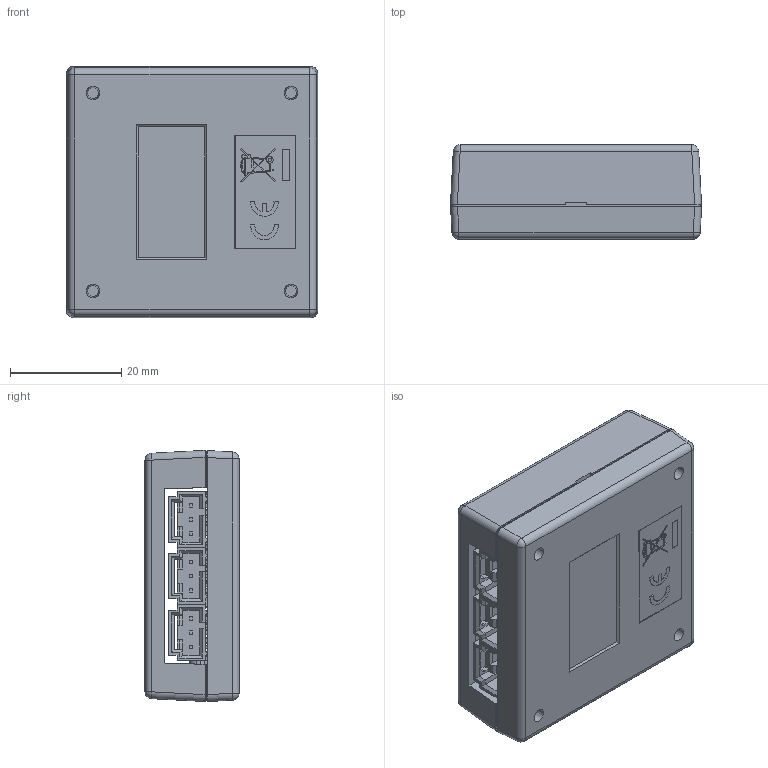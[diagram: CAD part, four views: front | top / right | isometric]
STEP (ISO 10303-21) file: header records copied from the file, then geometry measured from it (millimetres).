
FILE_DESCRIPTION(/* description */ ('Alibre Inc.'),/* implementation_level */ '2;1');
FILE_NAME(/* name */ 'export-30FB8266-848F-4B0A-ADC3-5027E941294C',/* time_stamp */ '2026-09-02T13:17:04-06:00',/* author */ (''),/* organization */ (''),/* preprocessor_version */ 'ST-DEVELOPER v17',/* originating_system */ 'Alibre',/* authorisation */ '');
FILE_SCHEMA (('CONFIG_CONTROL_DESIGN'));
Length unit declared in the file: centimetre
Products named in the file (180): Board; Extruded; 6540315712; 6540315520; R34; R25; 6540315328; 6540315136; R12; R18; 6540314944; 6540314752; C27; C24; C13; C12; User_Library-SOT-23-5_pin_SOT_sot-23-6_1; User_Library-SOT-23-5_body_sot23-6_1; User_Library-SOT-23-5; U5; U2; C36; C34; R17; R28; R26; R23; R21; R19; 6540314176; 6540313984; FB5; 6540314368; L10; FB4; L8; FB3; L6; RV5; RV4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
Bounding box: 45.11 x 16.89 x 45.12 mm (x, y, z)
Volume: 14564.6 mm3; surface area: 22986.9 mm2
Topology: 227 solids, 229 shells, 4259 faces, 11072 edges, 7225 vertices
Faces by surface type: plane 3448, cylinder 626, bspline 130, cone 43, sphere 8, torus 4
Full cylindrical faces by diameter (mm): 0.6 x1, 0.65 x2, 0.965 x18, 3.099 x4, 3.175 x4
Entity records: 108140 total; most frequent: CARTESIAN_POINT 21570, ORIENTED_EDGE 14103, DIRECTION 11677, EDGE_CURVE 7052, VECTOR 5440, LINE 5440, VERTEX_POINT 4613, AXIS2_PLACEMENT_3D 4013
